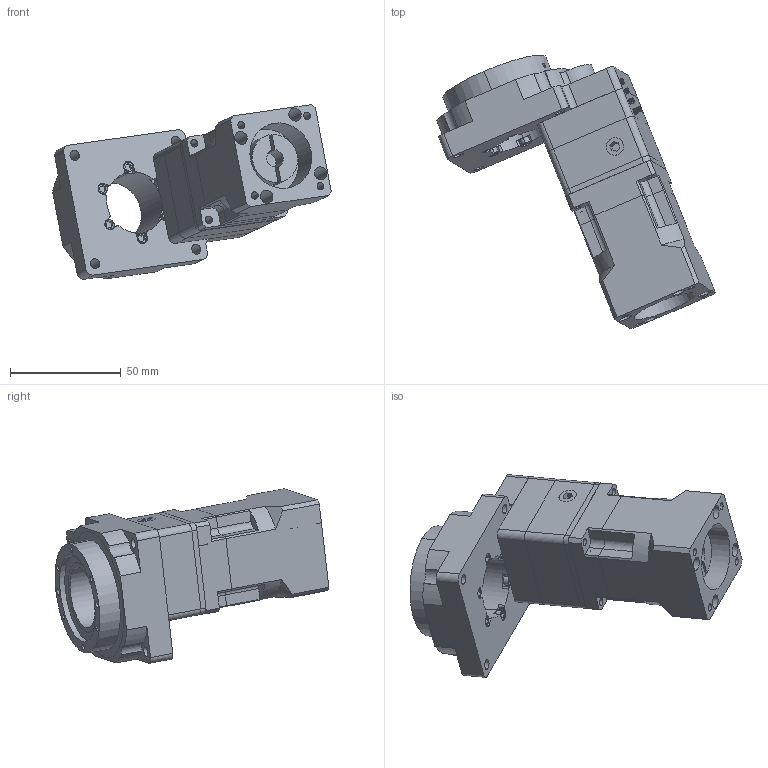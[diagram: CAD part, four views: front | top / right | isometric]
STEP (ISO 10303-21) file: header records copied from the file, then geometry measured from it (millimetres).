
FILE_DESCRIPTION (( 'STEP AP203' ), '1' );
FILE_NAME ('NT60-F-()-M1（配伺服8-30-45-M3).STEP', '2025-04-28T07:00:30', ( 'Windows User' ), ( 'P R C' ), 'SwSTEP 2.0', 'SolidWorks 2016', '' );
FILE_SCHEMA (( 'CONFIG_CONTROL_DESIGN' ));
Length unit declared in the file: millimetre
Products named in the file (4): NT60-F-()-M1（配伺服8-30-45-M3); DRN60-5耀倰(M3饜侜督-8-24 30-3 4-3.5-45); KPF42-L1-10粣(8-25-30-1.6-4-4.5-46); 錨璃3
Assembly tree (3 placements, depth 2):
  NT60-F-()-M1（配伺服8-30-45-M3)
    DRN60-5耀倰(M3饜侜督-8-24 30-3 4-3.5-45)
    KPF42-L1-10粣(8-25-30-1.6-4-4.5-46)
    錨璃3
Bounding box: 125.71 x 123.53 x 78.82 mm (x, y, z)
Volume: 223039.8 mm3; surface area: 66159.7 mm2
Topology: 6 solids, 12 shells, 1383 faces, 3656 edges, 2401 vertices
Faces by surface type: plane 830, cylinder 282, bspline 220, cone 51
Entity records: 51377 total; most frequent: CARTESIAN_POINT 17876, ORIENTED_EDGE 7202, DIRECTION 6079, EDGE_CURVE 3601, VECTOR 2543, LINE 2543, VERTEX_POINT 2397, AXIS2_PLACEMENT_3D 1768
